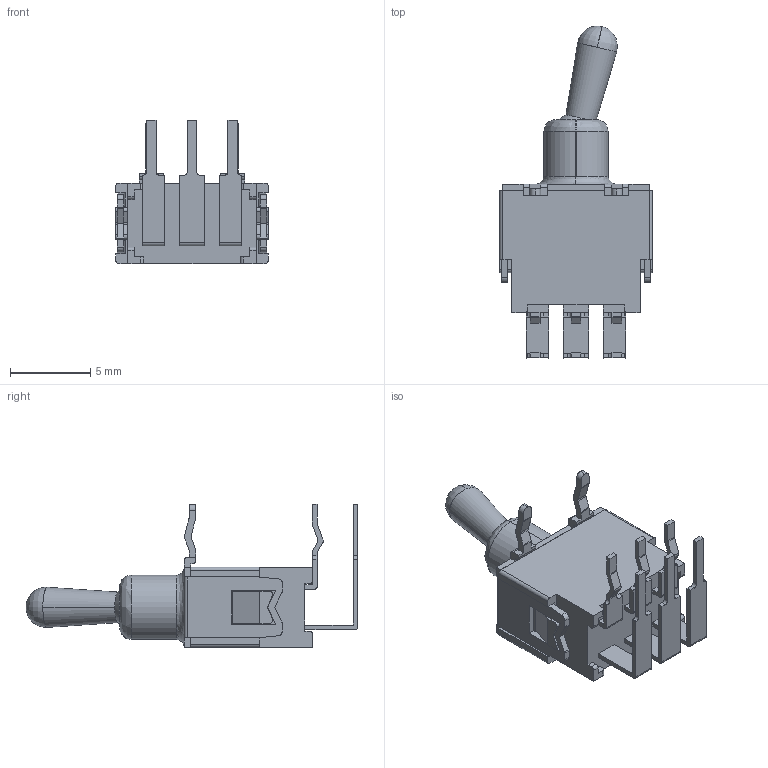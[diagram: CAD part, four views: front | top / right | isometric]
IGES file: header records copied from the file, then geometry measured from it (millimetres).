
Start section: SolidWorks IGES file using analytic representation for surfaces
Bounding box: 9.5 x 20.66 x 8.9 mm (x, y, z)
Surface area: 764.9 mm2 (no closed solid volume)
Topology: 0 solids, 0 shells, 319 faces, 2200 edges, 2198 vertices
Faces by surface type: bspline 221, revolution 98
